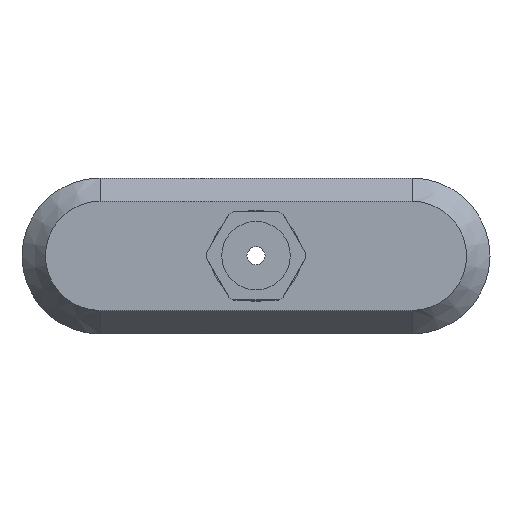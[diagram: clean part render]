
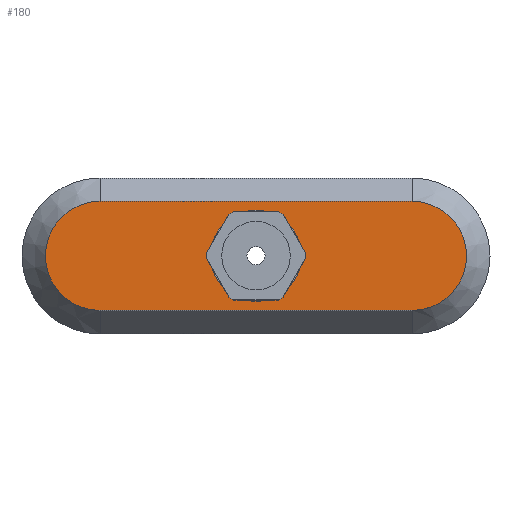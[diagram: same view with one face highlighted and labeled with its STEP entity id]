
A CAD part, top view. The second image highlights one B-rep face of the part: STEP entity #180.
In plain terms, the highlighted planar face has unit normal (0, 0, 1).
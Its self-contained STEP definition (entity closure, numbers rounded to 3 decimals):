
#180=ADVANCED_FACE('NONE',(#398,#399),#400,.T.);
#398=FACE_OUTER_BOUND('',#657,.T.);
#399=FACE_BOUND('',#658,.T.);
#400=PLANE('',#659);
#657=EDGE_LOOP('',(#1130,#1131,#1132,#1133));
#658=EDGE_LOOP('',(#1134,#1135));
#659=AXIS2_PLACEMENT_3D('',#1136,#1137,#1138);
#1130=ORIENTED_EDGE('',*,*,#1605,.F.);
#1131=ORIENTED_EDGE('',*,*,#1608,.T.);
#1132=ORIENTED_EDGE('',*,*,#1609,.T.);
#1133=ORIENTED_EDGE('',*,*,#1610,.T.);
#1134=ORIENTED_EDGE('',*,*,#1611,.F.);
#1135=ORIENTED_EDGE('',*,*,#1612,.F.);
#1136=CARTESIAN_POINT('',(30.0,10.5,-10.0));
#1137=DIRECTION('',(0.0,0.0,1.0));
#1138=DIRECTION('',(1.0,-0.0,0.0));
#1605=EDGE_CURVE('NONE',#1932,#1934,#1935,.T.);
#1608=EDGE_CURVE('NONE',#1932,#1938,#1939,.T.);
#1609=EDGE_CURVE('NONE',#1938,#1940,#1941,.T.);
#1610=EDGE_CURVE('NONE',#1940,#1934,#1942,.T.);
#1611=EDGE_CURVE('NONE',#1943,#1944,#1945,.T.);
#1612=EDGE_CURVE('NONE',#1944,#1943,#1946,.T.);
#1932=VERTEX_POINT('NONE',#2366);
#1934=VERTEX_POINT('NONE',#2369);
#1935=CIRCLE('',#2370,10.5);
#1938=VERTEX_POINT('NONE',#2374);
#1939=LINE('',#2375,#2376);
#1940=VERTEX_POINT('NONE',#2377);
#1941=CIRCLE('',#2378,10.5);
#1942=LINE('',#2379,#2380);
#1943=VERTEX_POINT('NONE',#2381);
#1944=VERTEX_POINT('NONE',#2382);
#1945=CIRCLE('',#2383,8.75);
#1946=CIRCLE('',#2384,8.75);
#2366=CARTESIAN_POINT('',(30.0,10.5,-10.0));
#2369=CARTESIAN_POINT('',(30.0,-10.5,-10.0));
#2370=AXIS2_PLACEMENT_3D('',#2735,#2736,#2737);
#2374=CARTESIAN_POINT('',(-30.0,10.5,-10.0));
#2375=CARTESIAN_POINT('',(30.0,10.5,-10.0));
#2376=VECTOR('',#2739,1000.0);
#2377=CARTESIAN_POINT('',(-30.0,-10.5,-10.0));
#2378=AXIS2_PLACEMENT_3D('',#2740,#2741,#2742);
#2379=CARTESIAN_POINT('',(-30.0,-10.5,-10.0));
#2380=VECTOR('',#2743,1000.0);
#2381=CARTESIAN_POINT('',(0.,8.75,-10.0));
#2382=CARTESIAN_POINT('',(0.,-8.75,-10.0));
#2383=AXIS2_PLACEMENT_3D('',#2744,#2745,#2746);
#2384=AXIS2_PLACEMENT_3D('',#2747,#2748,#2749);
#2735=CARTESIAN_POINT('',(30.0,0.,-10.0));
#2736=DIRECTION('',(0.0,0.0,-1.0));
#2737=DIRECTION('',(0.0,1.0,0.0));
#2739=DIRECTION('',(-1.0,0.0,0.0));
#2740=CARTESIAN_POINT('',(-30.0,0.,-10.0));
#2741=DIRECTION('',(0.0,0.0,1.0));
#2742=DIRECTION('',(0.0,-1.0,0.0));
#2743=DIRECTION('',(1.0,0.,0.0));
#2744=CARTESIAN_POINT('',(0.,0.,-10.0));
#2745=DIRECTION('',(0.0,0.0,1.0));
#2746=DIRECTION('',(0.0,-1.0,0.0));
#2747=CARTESIAN_POINT('',(0.,0.,-10.0));
#2748=DIRECTION('',(0.0,0.0,1.0));
#2749=DIRECTION('',(0.0,-1.0,0.0));
